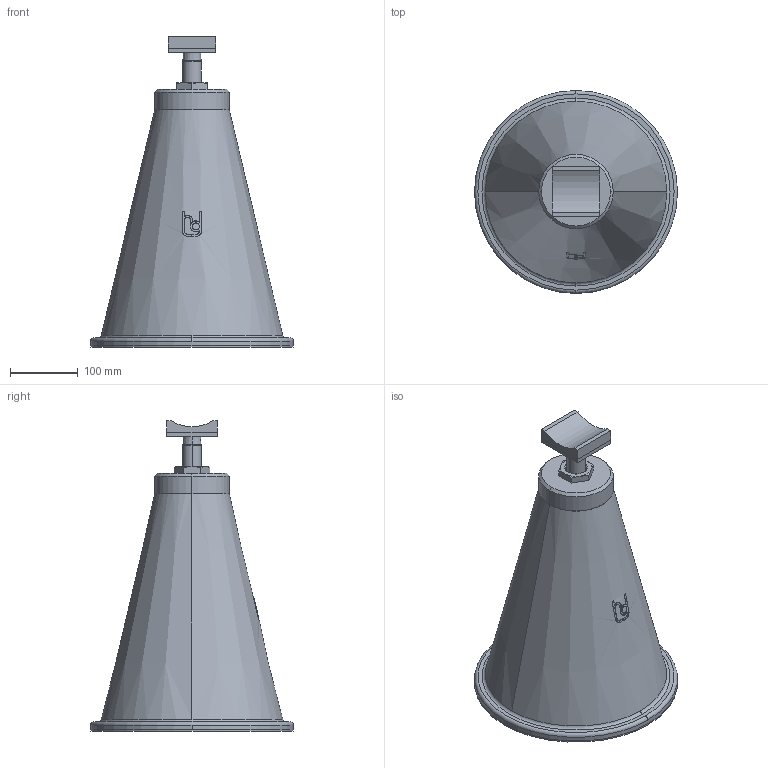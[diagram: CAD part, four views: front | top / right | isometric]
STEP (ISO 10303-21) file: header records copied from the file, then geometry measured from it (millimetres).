
FILE_DESCRIPTION(('STEP AP214'),'1');
FILE_NAME('RSRFB_DN100.stp','2018-06-26T08:20:20',(' '),(' '),'Spatial InterOp 3D',' ',' ');
FILE_SCHEMA(('automotive_design'));
Length unit declared in the file: millimetre
Products named in the file (6): 2; 6; 5; 3; 4; 1
Bounding box: 300 x 300 x 459 mm (x, y, z)
Volume: 11650739.6 mm3; surface area: 537415.8 mm2
Topology: 6 solids, 7 shells, 118 faces, 277 edges, 177 vertices
Faces by surface type: plane 51, cylinder 34, cone 25, torus 8
Entity records: 4719 total; most frequent: CARTESIAN_POINT 929, DIRECTION 586, ORIENTED_EDGE 554, EDGE_CURVE 277, AXIS2_PLACEMENT_3D 226, VERTEX_POINT 177, LINE 134, VECTOR 134
